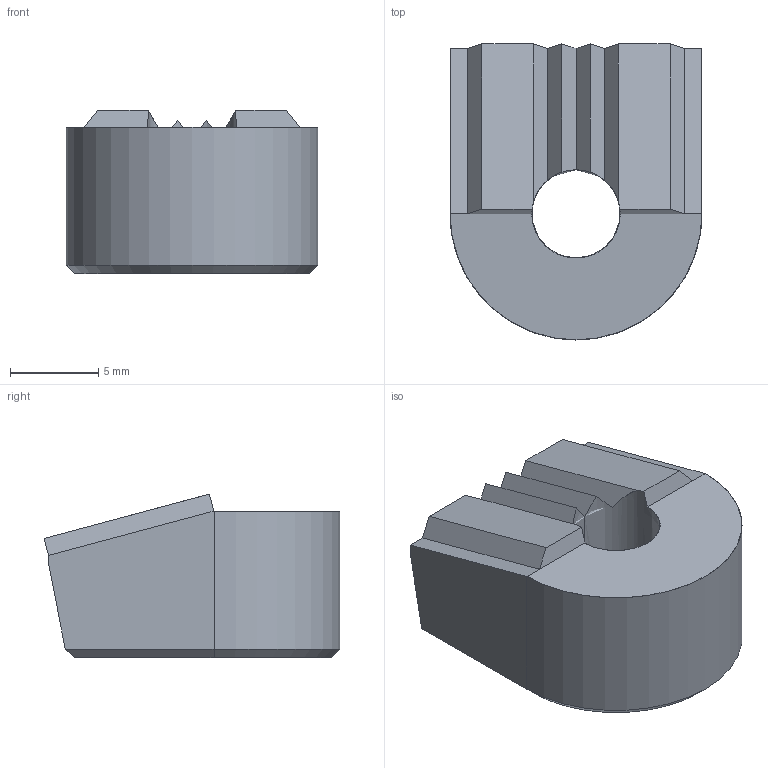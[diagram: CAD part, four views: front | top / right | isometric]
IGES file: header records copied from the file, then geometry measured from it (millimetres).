
Start section: SolidWorks IGES FILE using analytic representation for surfaces
Global section: file name: C:\WIX2\Positioning\3550\3550W006.igs; native system: SolidWorks 2003 by SolidWorks Corporation; preprocessor: Version 5.3; author: Joan; date: 030722.164438; units: millimetre
Bounding box: 14.28 x 16.77 x 9.29 mm (x, y, z)
Surface area: 940.6 mm2 (no closed solid volume)
Topology: 0 solids, 0 shells, 31 faces, 240 edges, 240 vertices
Faces by surface type: bspline 27, revolution 4
